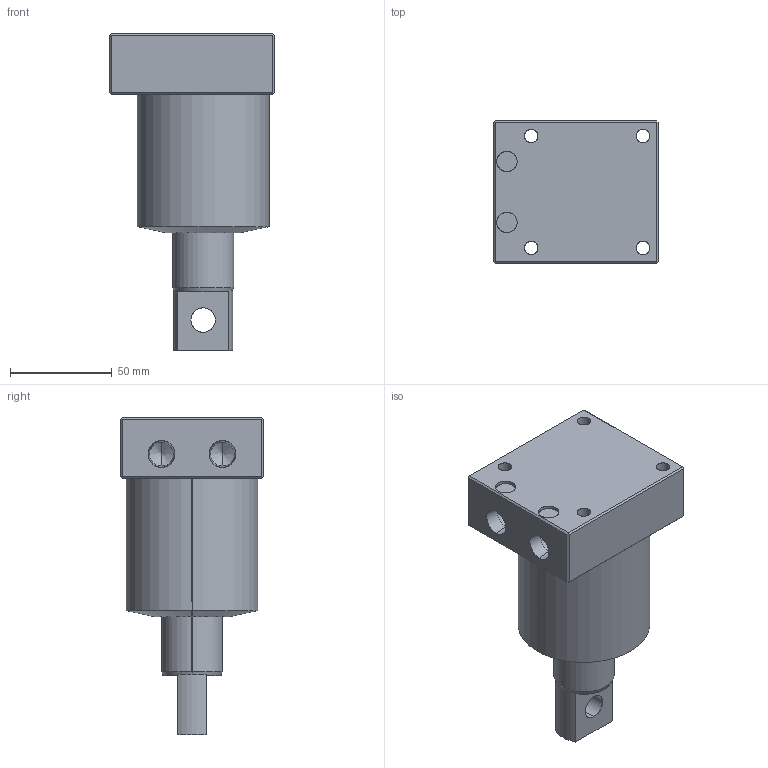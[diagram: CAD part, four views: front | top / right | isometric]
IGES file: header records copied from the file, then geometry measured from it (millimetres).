
Start section: SolidWorks IGES file using analytic representation for surfaces
Global section: file name: E:\ALL SSVT IGS MODEL\ALL-SWING-IGS\SWING.-65\SB03-651-RH-LH-BM-PTYPE\SB03-652-LH-BM-PTYPE.IGS; native system: SolidWorks 2019; preprocessor: SolidWorks 2019; author: SSVT; date: 210823.104606; units: millimetre
Bounding box: 81 x 70 x 156 mm (x, y, z)
Surface area: 56388.7 mm2 (no closed solid volume)
Topology: 0 solids, 0 shells, 70 faces, 1157 edges, 1153 vertices
Faces by surface type: revolution 39, bspline 31
